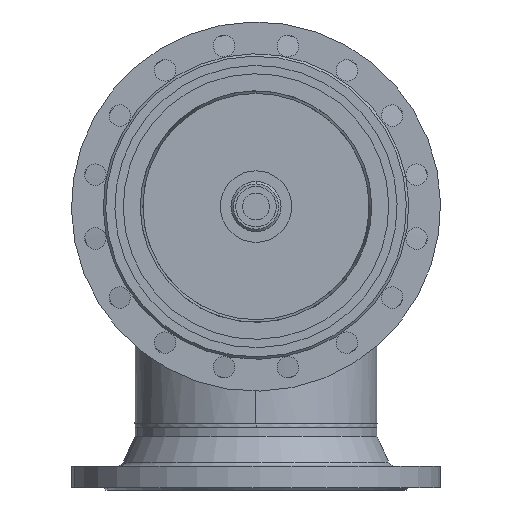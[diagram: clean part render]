
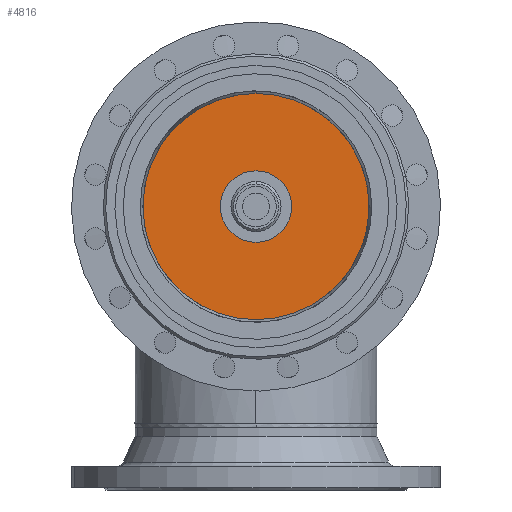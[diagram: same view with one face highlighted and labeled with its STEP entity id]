
A CAD part, front view. The second image highlights one B-rep face of the part: STEP entity #4816.
In plain terms, the highlighted planar face has unit normal (0, -1, 0).
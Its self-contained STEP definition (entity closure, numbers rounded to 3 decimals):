
#1170 = ORIENTED_EDGE ( 'NONE', *, *, #6526, .T. ) ;
#2165 = CARTESIAN_POINT ( 'NONE',  ( 0., -78., -60. ) ) ;
#2292 = CIRCLE ( 'NONE', #2293, 60. ) ;
#2293 = AXIS2_PLACEMENT_3D ( 'NONE', #2294, #2295, #2296 ) ;
#2294 = CARTESIAN_POINT ( 'NONE',  ( 0., -78., 0. ) ) ;
#2295 = DIRECTION ( 'NONE',  ( 0., -1., 0. ) ) ;
#2296 = DIRECTION ( 'NONE',  ( 0., 0., -1. ) ) ;
#3533 = CARTESIAN_POINT ( 'NONE',  ( 0., -78., -220. ) ) ;
#4626 = CARTESIAN_POINT ( 'NONE',  ( 0., -78., 220. ) ) ;
#4816 = ADVANCED_FACE ( 'NONE', ( #7666, #7667 ), #7668, .T. ) ;
#5133 = EDGE_LOOP ( 'NONE', ( #6528, #7815 ) ) ;
#6429 = EDGE_CURVE ( 'NONE', #9631, #12223, #9264, .T. ) ;
#6526 = EDGE_CURVE ( 'NONE', #10780, #11887, #9553, .T. ) ;
#6527 = EDGE_CURVE ( 'NONE', #11887, #10780, #9560, .T. ) ;
#6528 = ORIENTED_EDGE ( 'NONE', *, *, #6429, .F. ) ;
#7051 = CARTESIAN_POINT ( 'NONE',  ( 0., -78., 60. ) ) ;
#7666 = FACE_BOUND ( 'NONE', #5133, .T. ) ;
#7667 = FACE_OUTER_BOUND ( 'NONE', #7715, .T. ) ;
#7668 = PLANE ( 'NONE',  #7669 ) ;
#7669 = AXIS2_PLACEMENT_3D ( 'NONE', #7676, #7677, #7678 ) ;
#7676 = CARTESIAN_POINT ( 'NONE',  ( 0., -78., 0. ) ) ;
#7677 = DIRECTION ( 'NONE',  ( 0., -1., 0. ) ) ;
#7678 = DIRECTION ( 'NONE',  ( 0., 0., -1. ) ) ;
#7715 = EDGE_LOOP ( 'NONE', ( #8316, #1170 ) ) ;
#7815 = ORIENTED_EDGE ( 'NONE', *, *, #9780, .F. ) ;
#8316 = ORIENTED_EDGE ( 'NONE', *, *, #6527, .T. ) ;
#9264 = CIRCLE ( 'NONE', #9265, 60. ) ;
#9265 = AXIS2_PLACEMENT_3D ( 'NONE', #9266, #9267, #9268 ) ;
#9266 = CARTESIAN_POINT ( 'NONE',  ( 0., -78., 0. ) ) ;
#9267 = DIRECTION ( 'NONE',  ( 0., -1., 0. ) ) ;
#9268 = DIRECTION ( 'NONE',  ( 0., 0., -1. ) ) ;
#9553 = CIRCLE ( 'NONE', #9554, 220. ) ;
#9554 = AXIS2_PLACEMENT_3D ( 'NONE', #9555, #9556, #9559 ) ;
#9555 = CARTESIAN_POINT ( 'NONE',  ( 0., -78., 0. ) ) ;
#9556 = DIRECTION ( 'NONE',  ( 0., -1., 0. ) ) ;
#9559 = DIRECTION ( 'NONE',  ( 0., 0., -1. ) ) ;
#9560 = CIRCLE ( 'NONE', #9561, 220. ) ;
#9561 = AXIS2_PLACEMENT_3D ( 'NONE', #9562, #9563, #9564 ) ;
#9562 = CARTESIAN_POINT ( 'NONE',  ( 0., -78., 0. ) ) ;
#9563 = DIRECTION ( 'NONE',  ( 0., -1., 0. ) ) ;
#9564 = DIRECTION ( 'NONE',  ( 0., 0., -1. ) ) ;
#9631 = VERTEX_POINT ( 'NONE', #2165 ) ;
#9780 = EDGE_CURVE ( 'NONE', #12223, #9631, #2292, .T. ) ;
#10780 = VERTEX_POINT ( 'NONE', #3533 ) ;
#11887 = VERTEX_POINT ( 'NONE', #4626 ) ;
#12223 = VERTEX_POINT ( 'NONE', #7051 ) ;
